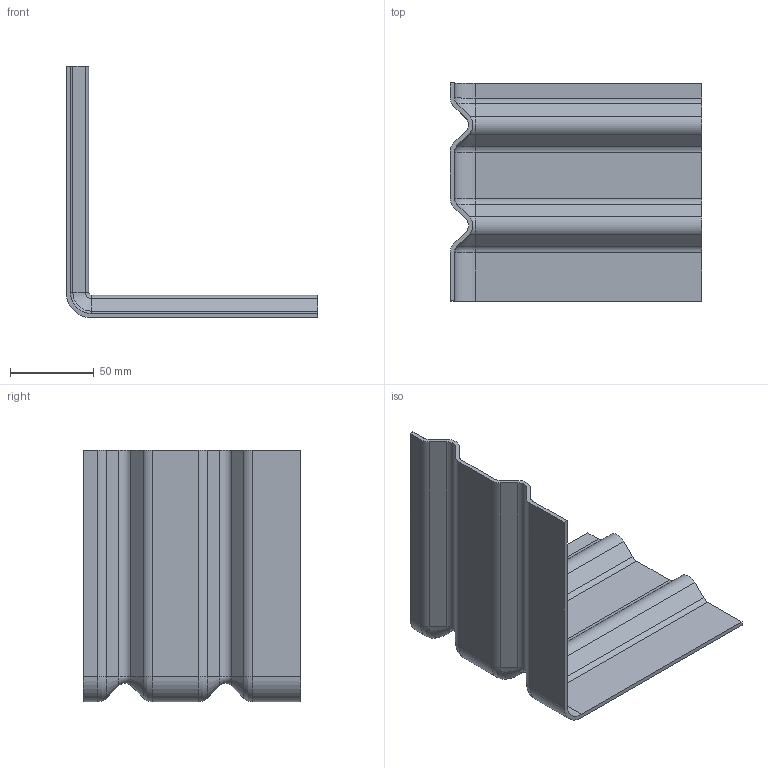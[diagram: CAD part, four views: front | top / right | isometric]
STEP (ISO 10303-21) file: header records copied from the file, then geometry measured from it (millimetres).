
FILE_DESCRIPTION((''),'2;1');
FILE_NAME('S:\Användarkataloger\AndreasA\Mina Inventor filer\Räcken\STEP\sparklist_innerhörn.stp','2010-09-07T13:53:11',('AndreasA'),(''),'Autodesk Inventor 2011','Autodesk Inventor 2011','');
FILE_SCHEMA(('AUTOMOTIVE_DESIGN { 1 0 10303 214 1 1 1 1 }'));
Length unit declared in the file: millimetre
Products named in the file (1): sparklist_innerhörn
Bounding box: 150 x 130 x 150 mm (x, y, z)
Volume: 104742.5 mm3; surface area: 85982.4 mm2
Topology: 1 solids, 1 shells, 82 faces, 192 edges, 112 vertices
Faces by surface type: plane 32, cylinder 30, torus 8, cone 8, bspline 4
Entity records: 2494 total; most frequent: CARTESIAN_POINT 563, DIRECTION 426, ORIENTED_EDGE 384, EDGE_CURVE 192, AXIS2_PLACEMENT_3D 155, VECTOR 116, LINE 116, VERTEX_POINT 112
